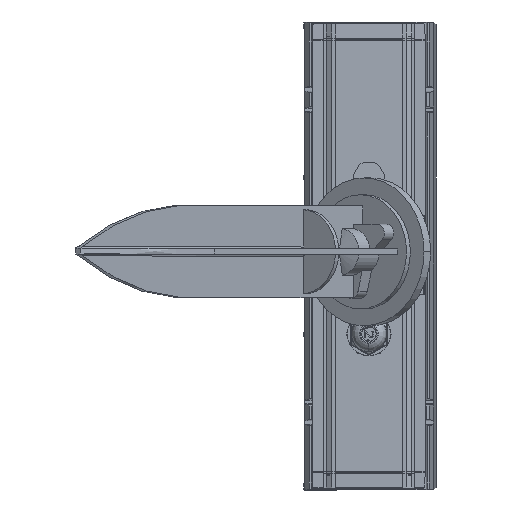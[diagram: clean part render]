
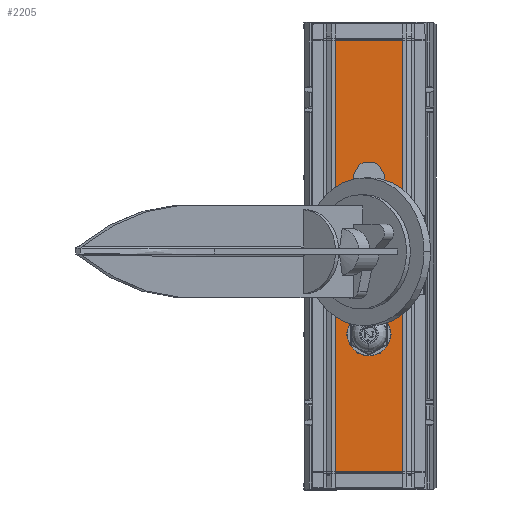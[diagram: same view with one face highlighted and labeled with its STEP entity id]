
A CAD part, top view. The second image highlights one B-rep face of the part: STEP entity #2205.
In plain terms, the highlighted planar face has unit normal (0, 0, 1).
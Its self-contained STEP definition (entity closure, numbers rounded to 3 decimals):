
#630=DIRECTION('',(-1.,0.,0.));
#631=VECTOR('',#630,36.);
#632=CARTESIAN_POINT('',(18.,10.85,17.25));
#633=LINE('',#632,#631);
#634=DIRECTION('',(0.,1.,0.));
#635=VECTOR('',#634,230.3);
#636=CARTESIAN_POINT('',(-18.,10.85,17.25));
#637=LINE('',#636,#635);
#638=DIRECTION('',(1.,0.,0.));
#639=VECTOR('',#638,36.);
#640=CARTESIAN_POINT('',(-18.,241.15,17.25));
#641=LINE('',#640,#639);
#642=CARTESIAN_POINT('',(0.,167.75,17.25));
#643=DIRECTION('',(0.,0.,1.));
#644=DIRECTION('',(0.,1.,0.));
#645=AXIS2_PLACEMENT_3D('',#642,#643,#644);
#647=CARTESIAN_POINT('',(0.,167.75,17.25));
#648=DIRECTION('',(0.,0.,1.));
#649=DIRECTION('',(0.,-1.,0.));
#650=AXIS2_PLACEMENT_3D('',#647,#648,#649);
#652=CARTESIAN_POINT('',(0.,84.25,17.25));
#653=DIRECTION('',(0.,0.,1.));
#654=DIRECTION('',(1.,0.,0.));
#655=AXIS2_PLACEMENT_3D('',#652,#653,#654);
#657=CARTESIAN_POINT('',(0.,84.25,17.25));
#658=DIRECTION('',(0.,0.,1.));
#659=DIRECTION('',(-1.,0.,0.));
#660=AXIS2_PLACEMENT_3D('',#657,#658,#659);
#778=DIRECTION('',(0.,1.,0.));
#779=VECTOR('',#778,230.3);
#780=CARTESIAN_POINT('',(18.,10.85,17.25));
#781=LINE('',#780,#779);
#1025=CARTESIAN_POINT('',(10.5,84.25,17.25));
#1026=CARTESIAN_POINT('',(-10.5,84.25,17.25));
#1027=VERTEX_POINT('',#1025);
#1028=VERTEX_POINT('',#1026);
#1141=CARTESIAN_POINT('',(18.,241.15,17.25));
#1142=VERTEX_POINT('',#1141);
#1143=CARTESIAN_POINT('',(-18.,241.15,17.25));
#1144=VERTEX_POINT('',#1143);
#1245=CARTESIAN_POINT('',(18.,10.85,17.25));
#1246=VERTEX_POINT('',#1245);
#1247=CARTESIAN_POINT('',(-18.,10.85,17.25));
#1248=VERTEX_POINT('',#1247);
#1269=CARTESIAN_POINT('',(0.,173.,17.25));
#1270=CARTESIAN_POINT('',(0.,162.5,17.25));
#1271=VERTEX_POINT('',#1269);
#1272=VERTEX_POINT('',#1270);
#2181=CARTESIAN_POINT('',(18.,246.,17.25));
#2182=DIRECTION('',(0.,0.,-1.));
#2183=DIRECTION('',(-1.,0.,0.));
#2184=AXIS2_PLACEMENT_3D('',#2181,#2182,#2183);
#2185=PLANE('',#2184);
#2186=ORIENTED_EDGE('',*,*,#1455,.T.);
#2188=ORIENTED_EDGE('',*,*,#2187,.T.);
#2189=ORIENTED_EDGE('',*,*,#1585,.T.);
#2191=ORIENTED_EDGE('',*,*,#2190,.F.);
#2192=EDGE_LOOP('',(#2186,#2188,#2189,#2191));
#2193=FACE_OUTER_BOUND('',#2192,.F.);
#2195=ORIENTED_EDGE('',*,*,#2194,.T.);
#2197=ORIENTED_EDGE('',*,*,#2196,.T.);
#2198=EDGE_LOOP('',(#2195,#2197));
#2199=FACE_BOUND('',#2198,.F.);
#2200=ORIENTED_EDGE('',*,*,#2171,.T.);
#2202=ORIENTED_EDGE('',*,*,#2201,.T.);
#2203=EDGE_LOOP('',(#2200,#2202));
#2204=FACE_BOUND('',#2203,.F.);
#646=CIRCLE('',#645,5.25);
#651=CIRCLE('',#650,5.25);
#656=CIRCLE('',#655,10.5);
#661=CIRCLE('',#660,10.5);
#1455=EDGE_CURVE('',#1246,#1248,#633,.T.);
#1585=EDGE_CURVE('',#1144,#1142,#641,.T.);
#2171=EDGE_CURVE('',#1027,#1028,#656,.T.);
#2187=EDGE_CURVE('',#1248,#1144,#637,.T.);
#2190=EDGE_CURVE('',#1246,#1142,#781,.T.);
#2194=EDGE_CURVE('',#1271,#1272,#646,.T.);
#2196=EDGE_CURVE('',#1272,#1271,#651,.T.);
#2201=EDGE_CURVE('',#1028,#1027,#661,.T.);
#2205=ADVANCED_FACE('',(#2193,#2199,#2204),#2185,.F.);
